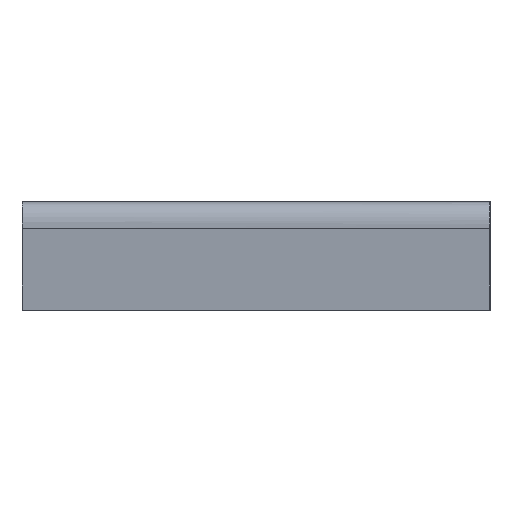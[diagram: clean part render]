
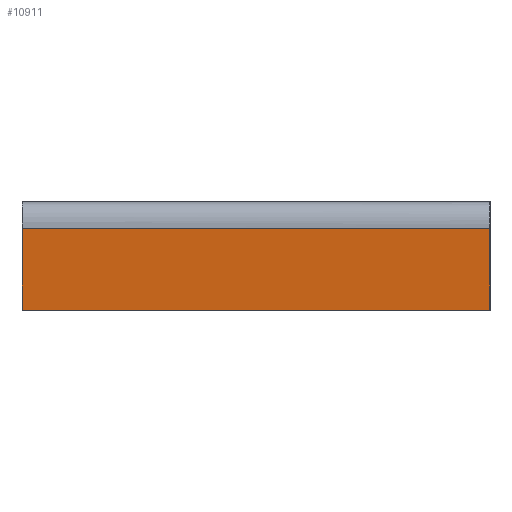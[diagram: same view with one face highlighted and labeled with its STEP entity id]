
A CAD part, left-side view. The second image highlights one B-rep face of the part: STEP entity #10911.
In plain terms, the highlighted planar face has unit normal (-0.996, 0, -0.091).
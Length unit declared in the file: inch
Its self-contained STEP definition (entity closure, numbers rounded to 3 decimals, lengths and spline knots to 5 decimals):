
#14 = CARTESIAN_POINT ( 'NONE',  ( -14.45875, 22.9375, 1.34581 ) ) ;
#578 = CARTESIAN_POINT ( 'NONE',  ( -14.09375, 22.9375, -2.65625 ) ) ;
#750 = VECTOR ( 'NONE', #2908, 39.37008 ) ;
#773 = VERTEX_POINT ( 'NONE', #2126 ) ;
#914 = CARTESIAN_POINT ( 'NONE',  ( -14.09375, 52.41723, -2.65625 ) ) ;
#1661 = CARTESIAN_POINT ( 'NONE',  ( -14.45875, 0., 1.34581 ) ) ;
#1768 = EDGE_CURVE ( 'NONE', #10126, #6316, #2156, .T. ) ;
#2061 = DIRECTION ( 'NONE',  ( -0.091, 0., 0.996 ) ) ;
#2126 = CARTESIAN_POINT ( 'NONE',  ( -14.09375, 0., -2.65625 ) ) ;
#2135 = ORIENTED_EDGE ( 'NONE', *, *, #10489, .T. ) ;
#2156 = LINE ( 'NONE', #9178, #12193 ) ;
#2306 = AXIS2_PLACEMENT_3D ( 'NONE', #8100, #5166, #2061 ) ;
#2720 = ORIENTED_EDGE ( 'NONE', *, *, #4851, .F. ) ;
#2908 = DIRECTION ( 'NONE',  ( 0., -1., 0. ) ) ;
#3835 = DIRECTION ( 'NONE',  ( 0., -1., 0. ) ) ;
#3867 = FACE_OUTER_BOUND ( 'NONE', #12211, .T. ) ;
#4082 = LINE ( 'NONE', #914, #750 ) ;
#4231 = DIRECTION ( 'NONE',  ( -0.091, 0., 0.996 ) ) ;
#4851 = EDGE_CURVE ( 'NONE', #6316, #773, #10854, .T. ) ;
#5166 = DIRECTION ( 'NONE',  ( 0.996, 0., 0.091 ) ) ;
#5332 = LINE ( 'NONE', #14, #10000 ) ;
#5631 = EDGE_CURVE ( 'NONE', #10348, #10126, #5332, .T. ) ;
#6316 = VERTEX_POINT ( 'NONE', #1661 ) ;
#7707 = VECTOR ( 'NONE', #12025, 39.37008 ) ;
#7873 = CARTESIAN_POINT ( 'NONE',  ( -14.45875, 0., 1.34581 ) ) ;
#8100 = CARTESIAN_POINT ( 'NONE',  ( -14.45875, 52.41723, 1.34581 ) ) ;
#8584 = ORIENTED_EDGE ( 'NONE', *, *, #5631, .F. ) ;
#9118 = CARTESIAN_POINT ( 'NONE',  ( -14.45875, 22.9375, 1.34581 ) ) ;
#9178 = CARTESIAN_POINT ( 'NONE',  ( -14.45875, 52.41723, 1.34581 ) ) ;
#10000 = VECTOR ( 'NONE', #4231, 39.37008 ) ;
#10126 = VERTEX_POINT ( 'NONE', #9118 ) ;
#10348 = VERTEX_POINT ( 'NONE', #578 ) ;
#10489 = EDGE_CURVE ( 'NONE', #10348, #773, #4082, .T. ) ;
#10854 = LINE ( 'NONE', #7873, #7707 ) ;
#10911 = ADVANCED_FACE ( 'NONE', ( #3867 ), #11488, .F. ) ;
#11218 = ORIENTED_EDGE ( 'NONE', *, *, #1768, .F. ) ;
#11488 = PLANE ( 'NONE',  #2306 ) ;
#12025 = DIRECTION ( 'NONE',  ( 0.091, 0., -0.996 ) ) ;
#12193 = VECTOR ( 'NONE', #3835, 39.37008 ) ;
#12211 = EDGE_LOOP ( 'NONE', ( #2135, #2720, #11218, #8584 ) ) ;
